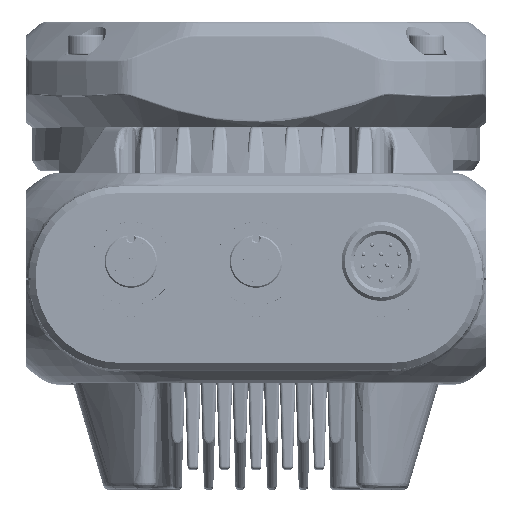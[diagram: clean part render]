
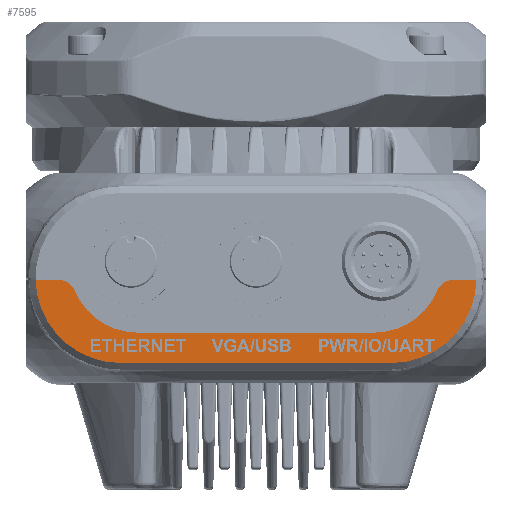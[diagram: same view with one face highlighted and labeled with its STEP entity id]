
A CAD part, top view. The second image highlights one B-rep face of the part: STEP entity #7595.
In plain terms, the highlighted planar face has unit normal (0, 0, 1).
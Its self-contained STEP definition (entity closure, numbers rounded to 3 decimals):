
#153=CARTESIAN_POINT('',(-30.,-3.,66.003));
#154=DIRECTION('',(0.,0.,1.));
#155=DIRECTION('',(0.923,0.385,0.));
#156=AXIS2_PLACEMENT_3D('',#153,#154,#155);
#158=CARTESIAN_POINT('',(-18.,2.,66.003));
#159=DIRECTION('',(0.,0.,1.));
#160=DIRECTION('',(-0.923,-0.385,0.));
#161=AXIS2_PLACEMENT_3D('',#158,#159,#160);
#163=DIRECTION('',(1.,0.,0.));
#164=VECTOR('',#163,36.);
#165=CARTESIAN_POINT('',(-18.,-8.3,66.003));
#166=LINE('',#165,#164);
#167=CARTESIAN_POINT('',(18.,2.,66.003));
#168=DIRECTION('',(0.,0.,1.));
#169=DIRECTION('',(0.,-1.,0.));
#170=AXIS2_PLACEMENT_3D('',#167,#168,#169);
#172=CARTESIAN_POINT('',(30.,-3.,66.003));
#173=DIRECTION('',(0.,0.,1.));
#174=DIRECTION('',(0.,1.,0.));
#175=AXIS2_PLACEMENT_3D('',#172,#173,#174);
#177=DIRECTION('',(-1.,0.,0.));
#178=VECTOR('',#177,3.497);
#179=CARTESIAN_POINT('',(33.497,-0.3,66.003));
#180=LINE('',#179,#178);
#181=CARTESIAN_POINT('',(20.588,0.,66.003));
#182=DIRECTION('',(0.,0.,-1.));
#183=DIRECTION('',(1.,-0.023,0.));
#184=AXIS2_PLACEMENT_3D('',#181,#182,#183);
#186=DIRECTION('',(-1.,0.,0.));
#187=VECTOR('',#186,6.468);
#188=CARTESIAN_POINT('',(20.586,-12.913,66.003));
#189=LINE('',#188,#187);
#190=CARTESIAN_POINT('',(14.118,-12.913,66.003));
#191=CARTESIAN_POINT('',(14.075,-12.913,66.003));
#192=CARTESIAN_POINT('',(14.031,-12.913,66.003));
#193=CARTESIAN_POINT('',(13.988,-12.913,66.003));
#195=DIRECTION('',(-1.,0.,0.));
#196=VECTOR('',#195,34.575);
#197=CARTESIAN_POINT('',(13.988,-12.913,66.003));
#198=LINE('',#197,#196);
#199=CARTESIAN_POINT('',(-20.587,0.,66.003));
#200=DIRECTION('',(0.,0.,-1.));
#201=DIRECTION('',(0.,-1.,0.));
#202=AXIS2_PLACEMENT_3D('',#199,#200,#201);
#204=DIRECTION('',(1.,0.,0.));
#205=VECTOR('',#204,3.497);
#206=CARTESIAN_POINT('',(-33.497,-0.3,
66.003));
#207=LINE('',#206,#205);
#5956=CARTESIAN_POINT('',(33.497,-0.3,
66.003));
#6073=CARTESIAN_POINT('',(-33.497,-0.3,
66.003));
#6165=CARTESIAN_POINT('',(20.586,-12.913,66.003));
#6166=VERTEX_POINT('',#6165);
#6167=CARTESIAN_POINT('',(14.118,-12.913,66.003));
#6168=VERTEX_POINT('',#6167);
#6169=VERTEX_POINT('',#193);
#6170=CARTESIAN_POINT('',(-20.587,-12.913,
66.003));
#6171=VERTEX_POINT('',#6170);
#7049=VERTEX_POINT('',#6073);
#7141=VERTEX_POINT('',#5956);
#7164=CARTESIAN_POINT('',(-27.508,-1.962,
66.003));
#7165=CARTESIAN_POINT('',(-30.,-0.3,66.003));
#7166=VERTEX_POINT('',#7164);
#7167=VERTEX_POINT('',#7165);
#7168=CARTESIAN_POINT('',(-18.,-8.3,
66.003));
#7169=VERTEX_POINT('',#7168);
#7170=CARTESIAN_POINT('',(18.,-8.3,66.003));
#7171=VERTEX_POINT('',#7170);
#7172=CARTESIAN_POINT('',(27.508,-1.962,66.003));
#7173=VERTEX_POINT('',#7172);
#7174=CARTESIAN_POINT('',(30.,-0.3,66.003));
#7175=VERTEX_POINT('',#7174);
#7565=CARTESIAN_POINT('',(0.,0.,66.003));
#7566=DIRECTION('',(0.,0.,1.));
#7567=DIRECTION('',(-1.,0.,0.));
#7568=AXIS2_PLACEMENT_3D('',#7565,#7566,#7567);
#7569=PLANE('',#7568);
#7571=ORIENTED_EDGE('',*,*,#7570,.F.);
#7573=ORIENTED_EDGE('',*,*,#7572,.T.);
#7575=ORIENTED_EDGE('',*,*,#7574,.T.);
#7577=ORIENTED_EDGE('',*,*,#7576,.T.);
#7579=ORIENTED_EDGE('',*,*,#7578,.F.);
#7581=ORIENTED_EDGE('',*,*,#7580,.F.);
#7583=ORIENTED_EDGE('',*,*,#7582,.T.);
#7585=ORIENTED_EDGE('',*,*,#7584,.T.);
#7587=ORIENTED_EDGE('',*,*,#7586,.T.);
#7589=ORIENTED_EDGE('',*,*,#7588,.T.);
#7591=ORIENTED_EDGE('',*,*,#7590,.T.);
#7592=ORIENTED_EDGE('',*,*,#7495,.T.);
#7593=EDGE_LOOP('',(#7571,#7573,#7575,#7577,#7579,#7581,#7583,#7585,#7587,#7589,
#7591,#7592));
#7594=FACE_OUTER_BOUND('',#7593,.F.);
#7595=ADVANCED_FACE('',(#7594),#7569,.T.);
#157=CIRCLE('',#156,2.7);
#162=CIRCLE('',#161,10.3);
#171=CIRCLE('',#170,10.3);
#176=CIRCLE('',#175,2.7);
#185=CIRCLE('',#184,12.913);
#194=B_SPLINE_CURVE_WITH_KNOTS('',3,(#190,#191,#192,#193),.UNSPECIFIED.,.F.,.F.,
(4,4),(0.,1.),.UNSPECIFIED.);
#203=CIRCLE('',#202,12.913);
#7495=EDGE_CURVE('',#7049,#7167,#207,.T.);
#7570=EDGE_CURVE('',#7166,#7167,#157,.T.);
#7572=EDGE_CURVE('',#7166,#7169,#162,.T.);
#7574=EDGE_CURVE('',#7169,#7171,#166,.T.);
#7576=EDGE_CURVE('',#7171,#7173,#171,.T.);
#7578=EDGE_CURVE('',#7175,#7173,#176,.T.);
#7580=EDGE_CURVE('',#7141,#7175,#180,.T.);
#7582=EDGE_CURVE('',#7141,#6166,#185,.T.);
#7584=EDGE_CURVE('',#6166,#6168,#189,.T.);
#7586=EDGE_CURVE('',#6168,#6169,#194,.T.);
#7588=EDGE_CURVE('',#6169,#6171,#198,.T.);
#7590=EDGE_CURVE('',#6171,#7049,#203,.T.);
